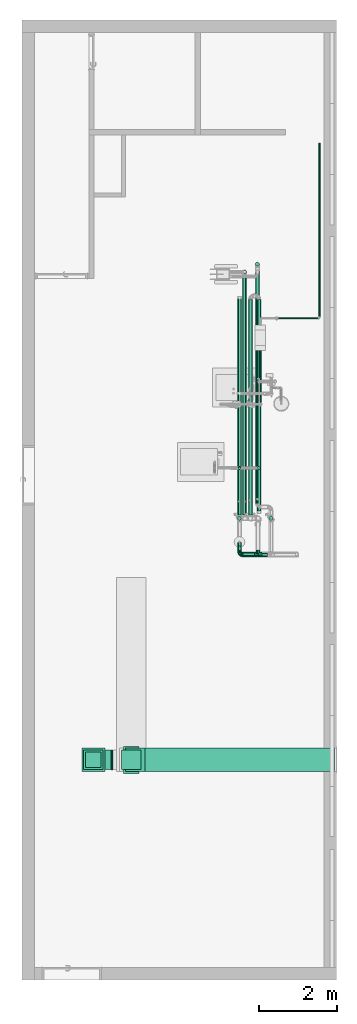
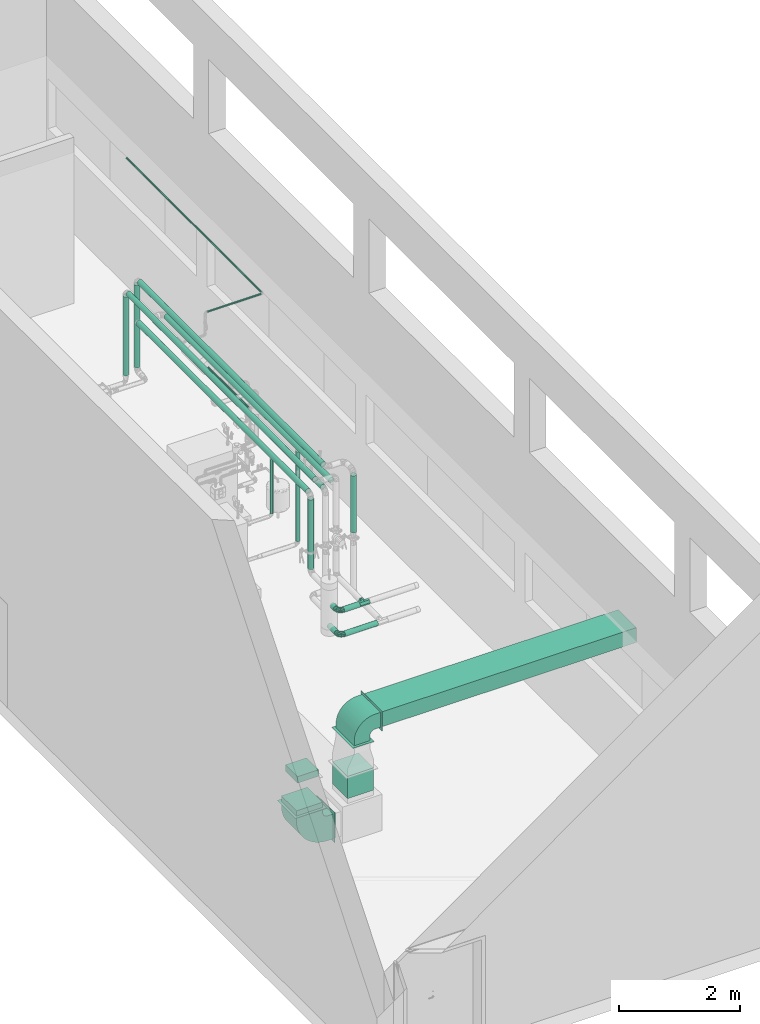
# One storey, part 8 of 43: 23 flow segments, 5 flow fittings.
"""IFC2X3 building model written with IfcOpenShell, lengths in millimetres."""

from ifc_helpers import new_model, entity, si_unit, converted_unit, derived_unit, direction, frame, frame_2d, origin, origin_2d_with_axis, place, context, subcontext, project, spatial, polyline, circle_curve, parameter, trimmed, segment, composite_curve, rectangle, circle, outline, extrude, faceted_brep, source, transform, mapped, material, material_list, type_object, type_shapes, element, save


model = new_model("IFC2X3")

# Units and contexts
model_context = context("Model", 3, precision=0.01, world=origin(), true_north=direction((6.123031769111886e-17, 1.0)))
body_context = subcontext(model_context, "Body", "Model", "MODEL_VIEW")
ifc_project = project(units=[si_unit("LENGTHUNIT", "METRE", prefix="MILLI"), si_unit("AREAUNIT", "SQUARE_METRE"), si_unit("VOLUMEUNIT", "CUBIC_METRE"), converted_unit("PLANEANGLEUNIT", "DEGREE", entity("IfcRatioMeasure", 0.017453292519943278), si_unit("PLANEANGLEUNIT", "RADIAN"), dimensions=[0, 0, 0, 0, 0, 0, 0]), si_unit("MASSUNIT", "GRAM", prefix="KILO"), derived_unit("MASSDENSITYUNIT", [(si_unit("MASSUNIT", "GRAM", prefix="KILO"), 1), (si_unit("LENGTHUNIT", "METRE"), -3)]), derived_unit("MOMENTOFINERTIAUNIT", [(si_unit("LENGTHUNIT", "METRE"), 4)]), si_unit("TIMEUNIT", "SECOND"), si_unit("FREQUENCYUNIT", "HERTZ"), si_unit("THERMODYNAMICTEMPERATUREUNIT", "DEGREE_CELSIUS"), derived_unit("THERMALTRANSMITTANCEUNIT", [(si_unit("MASSUNIT", "GRAM", prefix="KILO"), 1), (si_unit("THERMODYNAMICTEMPERATUREUNIT", "KELVIN"), -1), (si_unit("TIMEUNIT", "SECOND"), -3)]), derived_unit("VOLUMETRICFLOWRATEUNIT", [(si_unit("LENGTHUNIT", "METRE"), 3), (si_unit("TIMEUNIT", "SECOND"), -1)]), derived_unit("MASSFLOWRATEUNIT", [(si_unit("MASSUNIT", "GRAM", prefix="KILO"), 1), (si_unit("TIMEUNIT", "SECOND"), -1)]), derived_unit("ROTATIONALFREQUENCYUNIT", [(si_unit("TIMEUNIT", "SECOND"), -1)]), si_unit("ELECTRICCURRENTUNIT", "AMPERE"), si_unit("ELECTRICVOLTAGEUNIT", "VOLT"), si_unit("POWERUNIT", "WATT"), si_unit("FORCEUNIT", "NEWTON", prefix="KILO"), si_unit("ILLUMINANCEUNIT", "LUX"), si_unit("LUMINOUSFLUXUNIT", "LUMEN"), si_unit("LUMINOUSINTENSITYUNIT", "CANDELA"), derived_unit("USERDEFINED", [(si_unit("MASSUNIT", "GRAM", prefix="KILO"), -1), (si_unit("LENGTHUNIT", "METRE"), -2), (si_unit("TIMEUNIT", "SECOND"), 3), (si_unit("LUMINOUSFLUXUNIT", "LUMEN"), 1)]), derived_unit("SOUNDPOWERUNIT", [(si_unit("MASSUNIT", "GRAM", prefix="KILO"), 1), (si_unit("LENGTHUNIT", "METRE"), 2), (si_unit("TIMEUNIT", "SECOND"), -3)]), derived_unit("SOUNDPRESSUREUNIT", [(si_unit("MASSUNIT", "GRAM", prefix="KILO"), 1), (si_unit("LENGTHUNIT", "METRE"), -1), (si_unit("TIMEUNIT", "SECOND"), -2)]), derived_unit("LINEARVELOCITYUNIT", [(si_unit("LENGTHUNIT", "METRE"), 1), (si_unit("TIMEUNIT", "SECOND"), -1)]), si_unit("PRESSUREUNIT", "PASCAL"), derived_unit("USERDEFINED", [(si_unit("LENGTHUNIT", "METRE"), -2), (si_unit("MASSUNIT", "GRAM", prefix="KILO"), 1), (si_unit("TIMEUNIT", "SECOND"), -2)]), derived_unit("LINEARFORCEUNIT", [(si_unit("MASSUNIT", "GRAM", prefix="KILO"), 1), (si_unit("LENGTHUNIT", "METRE"), 1), (si_unit("TIMEUNIT", "SECOND"), -2), (si_unit("LENGTHUNIT", "METRE"), -1)]), derived_unit("PLANARFORCEUNIT", [(si_unit("MASSUNIT", "GRAM", prefix="KILO"), 1), (si_unit("LENGTHUNIT", "METRE"), 1), (si_unit("TIMEUNIT", "SECOND"), -2), (si_unit("LENGTHUNIT", "METRE"), -2)])], contexts=[model_context])

# Site, building, storey
site_placement = place(None, origin())
site = spatial("IfcSite", under=ifc_project, at=site_placement, Name="Default", CompositionType="ELEMENT")
building_placement = place(site_placement, origin())
building = spatial("IfcBuilding", under=site, at=building_placement, CompositionType="ELEMENT")
storey_placement = place(building_placement, frame((0.0, 0.0, 270.0)))
storey = spatial("IfcBuildingStorey", under=building, at=storey_placement, Name="Niveau 0", CompositionType="ELEMENT", Elevation=270.0)

# Flow segments
duct_segment_type = type_object("IfcDuctSegmentType", Name="Gaine rectangulaire:Té / Coude à rayon bridé", PredefinedType="NOTDEFINED")
flow_segment_1_placement = place(storey_placement, origin())
element("IfcFlowSegment", 1, at=flow_segment_1_placement, inside=storey, type_object=duct_segment_type, Name="Gaine rectangulaire:Té / Coude à rayon bridé", ObjectType="Gaine rectangulaire:Té / Coude à rayon bridé", context=body_context, shape_type="SweptSolid", body=[
    extrude(rectangle(XDim=44.794034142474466, YDim=500.00000000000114, at=frame_2d((0.0, -2.1742607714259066e-12), x_axis=(1.0, 0.0))), frame((-5783.139540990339, -19048.55253287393, 675.0), z_axis=(0.0, 0.0, 1.0), x_axis=(-1.0, 0.0, 0.0)), (0.0, 0.0, 1.0), 500.00000000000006),
])
flow_segment_2_placement = place(storey_placement, origin())
element("IfcFlowSegment", 2, at=flow_segment_2_placement, inside=storey, type_object=duct_segment_type, Name="Gaine rectangulaire:Té / Coude à rayon bridé", ObjectType="Gaine rectangulaire:Té / Coude à rayon bridé", context=body_context, shape_type="SweptSolid", body=[
    extrude(rectangle(XDim=500.00000000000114, YDim=499.999999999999, at=origin_2d_with_axis()), frame((-6260.53655806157, -19048.552532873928, 1380.0), z_axis=(0.0, 0.0, 1.0), x_axis=(-1.0, 0.0, 0.0)), (0.0, 0.0, 1.0), 104.99999999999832),
])
flow_segment_3_placement = place(storey_placement, origin())
element("IfcFlowSegment", 3, at=flow_segment_3_placement, inside=storey, type_object=duct_segment_type, Name="Gaine rectangulaire:Té / Coude à rayon bridé", ObjectType="Gaine rectangulaire:Té / Coude à rayon bridé", context=body_context, shape_type="SweptSolid", body=[
    extrude(rectangle(XDim=399.9999999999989, YDim=400.0000000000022, at=origin_2d_with_axis()), frame((-6260.53655806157, -19048.55253287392, 1995.0), z_axis=(0.0, 0.0, 1.0), x_axis=(-1.0, 0.0, 0.0)), (0.0, 0.0, 1.0), 130.00000000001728),
])
flow_segment_4_placement = place(storey_placement, origin())
element("IfcFlowSegment", 4, at=flow_segment_4_placement, inside=storey, type_object=duct_segment_type, Name="Gaine rectangulaire:Té / Coude à rayon bridé", ObjectType="Gaine rectangulaire:Té / Coude à rayon bridé", context=body_context, shape_type="SweptSolid", body=[
    extrude(rectangle(XDim=4880.74252391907, YDim=600.0, at=frame_2d((0.0, -1.0800249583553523e-12), x_axis=(1.0, 0.0))), frame((-2490.3712619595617, -19048.552532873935, 2650.0)), (0.0, 0.0, 1.0), 300.0),
])
flow_segment_5_placement = place(storey_placement, origin())
element("IfcFlowSegment", 5, at=flow_segment_5_placement, inside=storey, type_object=duct_segment_type, Name="Gaine rectangulaire:Té / Coude à rayon bridé", ObjectType="Gaine rectangulaire:Té / Coude à rayon bridé", context=body_context, shape_type="SweptSolid", body=[
    extrude(rectangle(XDim=499.999999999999, YDim=499.999999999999, at=frame_2d((0.0, 2.1742607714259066e-12), x_axis=(1.0, 0.0))), frame((-5285.742523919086, -19048.55253287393, 1390.0), z_axis=(0.0, 0.0, 1.0), x_axis=(-1.0, 0.0, 0.0)), (0.0, 0.0, 1.0), 445.0000000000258),
])

# Flow fittings
ifc_material = material(Name="<Unnamed>")
ifc_material_list_1 = material_list([ifc_material, ifc_material, ifc_material, ifc_material, ifc_material])
ifc_material_list_2 = material_list([ifc_material, ifc_material, ifc_material, ifc_material, ifc_material])
duct_fitting_type_1 = type_object("IfcDuctFittingType", Name="Coude rectangulaire - Rayon constant - Bridé:100 R", PredefinedType="NOTDEFINED", material=ifc_material_list_2)
shared_shape_1 = source(origin(), body_context, "Body", "SweptSolid", [
    extrude(rectangle(XDim=104.99999999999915, YDim=500.0, at=origin_2d_with_axis()), frame((0.0, 402.500000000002, -250.0), z_axis=(0.0, 0.0, 1.0), x_axis=(0.0, 1.0, 0.0)), (0.0, 0.0, 1.0), 500.00000000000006),
    extrude(rectangle(XDim=500.0, YDim=104.99999999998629, at=frame_2d((3.353761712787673e-12, 0.0), x_axis=(1.0, 0.0))), frame((-402.499999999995, 0.0, -250.0), z_axis=(0.0, 0.0, 1.0), x_axis=(0.0, -1.0, 0.0)), (0.0, 0.0, 1.0), 500.00000000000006),
    extrude(outline(composite_curve([segment(polyline([(-425.0, -175.0), (75.0, -175.0)]), True, "CONTINUOUS"), segment(trimmed(circle_curve(frame_2d((175.0, -175.0), x_axis=(0.0, 1.0)), 100.0), [parameter(0.0)], [parameter(89.99999999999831)], True, "PARAMETER"), False, "CONTINUOUS"), segment(polyline([(175.0, -75.0), (175.0, 425.0)]), True, "CONTINUOUS"), segment(trimmed(circle_curve(frame_2d((175.0, -175.0), x_axis=(0.0, 1.0)), 600.0), [parameter(0.0)], [parameter(89.99999999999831)], True, "PARAMETER"), True, "CONTINUOUS")], self_intersect=False)), frame((-175.0, 175.0, -250.0), z_axis=(0.0, 0.0, 1.0), x_axis=(-1.0, 0.0, 0.0)), (0.0, 0.0, 1.0), 500.00000000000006),
    extrude(rectangle(XDim=5.000000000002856, YDim=600.0, at=frame_2d((-3.397282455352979e-14, 0.0), x_axis=(1.0, 0.0))), frame((-452.4999999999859, 0.0, -300.0)), (0.0, 0.0, 1.0), 600.0),
    extrude(rectangle(XDim=5.000000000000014, YDim=600.0, at=frame_2d((-3.397282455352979e-14, 0.0), x_axis=(1.0, 0.0))), frame((0.0, 452.5000000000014, -300.0), z_axis=(0.0, 0.0, 1.0), x_axis=(0.0, 1.0, 0.0)), (0.0, 0.0, 1.0), 600.0),
])
type_shapes(duct_fitting_type_1, [shared_shape_1])
flow_fitting_1_placement = place(storey_placement, frame((-6260.536558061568, -19048.552532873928, 925.0), z_axis=(0.0, 1.0, 0.0), x_axis=(-1.0, 0.0, 0.0)))
element("IfcFlowFitting", 6, at=flow_fitting_1_placement, inside=storey, type_object=duct_fitting_type_1, material=ifc_material_list_1, Name="Coude rectangulaire - Rayon constant - Bridé:100 R", ObjectType="Coude rectangulaire - Rayon constant - Bridé:100 R", context=body_context, shape_type="MappedRepresentation", body=[
    mapped(shared_shape_1, transform((0.0, 0.0, 0.0), scale=1.0)),
])
ifc_material_list_3 = material_list([ifc_material, ifc_material, ifc_material, ifc_material, ifc_material])
ifc_material_list_4 = material_list([ifc_material, ifc_material, ifc_material, ifc_material, ifc_material])
duct_fitting_type_2 = type_object("IfcDuctFittingType", Name="Coude rectangulaire - Rayon constant - Bridé:100 R", PredefinedType="NOTDEFINED", material=ifc_material_list_4)
shared_shape_2 = source(origin(), body_context, "Body", "SweptSolid", [
    extrude(rectangle(XDim=105.00000000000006, YDim=300.0, at=frame_2d((1.7763568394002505e-14, 0.0), x_axis=(1.0, 0.0))), frame((0.0, 302.5000000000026, -300.0), z_axis=(0.0, 0.0, 1.0), x_axis=(0.0, 1.0, 0.0)), (0.0, 0.0, 1.0), 600.0),
    extrude(rectangle(XDim=300.0, YDim=104.9999999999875, at=frame_2d((4.078515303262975e-12, -3.730349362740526e-13), x_axis=(1.0, 0.0))), frame((-302.4999999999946, 0.0, -300.0), z_axis=(0.0, 0.0, 1.0), x_axis=(0.0, -1.0, 0.0)), (0.0, 0.0, 1.0), 600.0000000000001),
    extrude(outline(composite_curve([segment(polyline([(-275.0, -125.0), (25.0, -125.0)]), True, "CONTINUOUS"), segment(trimmed(circle_curve(frame_2d((125.0, -125.0), x_axis=(0.0, 1.0)), 99.99999999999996), [parameter(0.0)], [parameter(89.99999999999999)], True, "PARAMETER"), False, "CONTINUOUS"), segment(polyline([(125.0, -25.0), (125.0, 275.0)]), True, "CONTINUOUS"), segment(trimmed(circle_curve(frame_2d((125.0, -125.0), x_axis=(0.0, 1.0)), 400.0), [parameter(0.0)], [parameter(89.99999999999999)], True, "PARAMETER"), True, "CONTINUOUS")], self_intersect=False)), frame((-125.0, 125.0, -300.0), z_axis=(0.0, 0.0, 1.0), x_axis=(-1.0, 0.0, 0.0)), (0.0, 0.0, 1.0), 600.0),
    extrude(rectangle(XDim=5.0000000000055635, YDim=400.0, at=frame_2d((-3.397282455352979e-14, 0.0), x_axis=(1.0, 0.0))), frame((-352.4999999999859, 0.0, -350.0)), (0.0, 0.0, 1.0), 700.0),
    extrude(rectangle(XDim=5.0000000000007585, YDim=400.0, at=origin_2d_with_axis()), frame((0.0, 352.50000000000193, -350.0), z_axis=(0.0, 0.0, 1.0), x_axis=(0.0, 1.0, 0.0)), (0.0, 0.0, 1.0), 700.0),
])
type_shapes(duct_fitting_type_2, [shared_shape_2])
flow_fitting_2_placement = place(storey_placement, frame((-5285.742523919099, -19048.552532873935, 2800.0), z_axis=(0.0, 1.0, 0.0), x_axis=(0.0, 0.0, 1.0)))
element("IfcFlowFitting", 7, at=flow_fitting_2_placement, inside=storey, type_object=duct_fitting_type_2, material=ifc_material_list_3, Name="Coude rectangulaire - Rayon constant - Bridé:100 R", ObjectType="Coude rectangulaire - Rayon constant - Bridé:100 R", context=body_context, shape_type="MappedRepresentation", body=[
    mapped(shared_shape_2, transform((0.0, 0.0, 0.0), scale=1.0)),
])

# Flow segments
pipe_segment_type_1 = type_object("IfcPipeSegmentType", Name="Canalisation:tube acier", PredefinedType="NOTDEFINED")
flow_segment_6_placement = place(storey_placement, origin())
element("IfcFlowSegment", 8, at=flow_segment_6_placement, inside=storey, type_object=pipe_segment_type_1, Name="Canalisation:tube acier", ObjectType="Canalisation:tube acier", context=body_context, shape_type="SweptSolid", body=[
    extrude(circle(Radius=50.8, at=origin_2d_with_axis()), frame((-2414.2632335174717, -13775.499999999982, 271.1847527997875), z_axis=(0.9999993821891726, 0.0, 0.0011115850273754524), x_axis=(0.0, 1.0, 0.0)), (0.0, 0.0, 1.0), 629.2636793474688),
])
flow_segment_7_placement = place(storey_placement, origin())
element("IfcFlowSegment", 9, at=flow_segment_7_placement, inside=storey, type_object=pipe_segment_type_1, Name="Canalisation:tube acier", ObjectType="Canalisation:tube acier", context=body_context, shape_type="SweptSolid", body=[
    extrude(circle(Radius=50.8, at=origin_2d_with_axis()), frame((-2040.0, -12445.05665622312, 2751.9883586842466), z_axis=(0.0, 1.0, 0.0), x_axis=(1.0, 0.0, 0.0)), (0.0, 0.0, 1.0), 6069.556656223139),
])
flow_segment_8_placement = place(storey_placement, origin())
element("IfcFlowSegment", 10, at=flow_segment_8_placement, inside=storey, type_object=pipe_segment_type_1, Name="Canalisation:tube acier", ObjectType="Canalisation:tube acier", context=body_context, shape_type="SweptSolid", body=[
    extrude(circle(Radius=50.8, at=origin_2d_with_axis()), frame((-2503.263180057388, -13686.499999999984, 271.08720336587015), z_axis=(0.0, 0.9998190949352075, 0.019020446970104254), x_axis=(1.0, 0.0, 0.0)), (0.0, 0.0, 1.0), 229.9675407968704),
])
flow_segment_9_placement = place(storey_placement, origin())
element("IfcFlowSegment", 11, at=flow_segment_9_placement, inside=storey, type_object=pipe_segment_type_1, Name="Canalisation:tube acier", ObjectType="Canalisation:tube acier", context=body_context, shape_type="SweptSolid", body=[
    extrude(circle(Radius=50.8, at=origin_2d_with_axis()), frame((-1690.0, -12830.0, 1515.4999999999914), z_axis=(0.0, 0.0, 1.0), x_axis=(-1.0, 0.0, 0.0)), (0.0, 0.0, 1.0), 1147.4883586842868),
])
flow_segment_10_placement = place(storey_placement, origin())
element("IfcFlowSegment", 12, at=flow_segment_10_placement, inside=storey, type_object=pipe_segment_type_1, Name="Canalisation:tube acier", ObjectType="Canalisation:tube acier", context=body_context, shape_type="SweptSolid", body=[
    extrude(circle(Radius=50.8, at=origin_2d_with_axis()), frame((-2040.0, -6286.499999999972, 998.0)), (0.0, 0.0, 1.0), 1664.988358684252),
])
flow_segment_11_placement = place(storey_placement, origin())
element("IfcFlowSegment", 13, at=flow_segment_11_placement, inside=storey, type_object=pipe_segment_type_1, Name="Canalisation:tube acier", ObjectType="Canalisation:tube acier", context=body_context, shape_type="SweptSolid", body=[
    extrude(circle(Radius=50.8, at=frame_2d((-4.331468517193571e-12, 0.0), x_axis=(1.0, 0.0))), frame((-2503.2631800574, -13656.499999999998, 741.9883586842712), z_axis=(0.0, 1.0, 0.0), x_axis=(-1.0, 0.0, 0.0)), (0.0, 0.0, 1.0), 111.04339182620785),
])
flow_segment_12_placement = place(storey_placement, origin())
element("IfcFlowSegment", 14, at=flow_segment_12_placement, inside=storey, type_object=pipe_segment_type_1, Name="Canalisation:tube acier", ObjectType="Canalisation:tube acier", context=body_context, shape_type="SweptSolid", body=[
    extrude(circle(Radius=50.8, at=origin_2d_with_axis()), frame((-2113.2631797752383, -13745.499999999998, 741.9651596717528), z_axis=(-0.9999999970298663, 0.0, 7.707313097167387e-05), x_axis=(0.0, -1.0, 0.0)), (0.0, 0.0, 1.0), 301.00000117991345),
])
flow_segment_13_placement = place(storey_placement, origin())
element("IfcFlowSegment", 15, at=flow_segment_13_placement, inside=storey, type_object=pipe_segment_type_1, Name="Canalisation:tube acier", ObjectType="Canalisation:tube acier", context=body_context, shape_type="SweptSolid", body=[
    extrude(circle(Radius=50.8, at=frame_2d((2.707167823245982e-13, 0.0), x_axis=(1.0, 0.0))), frame((-2368.263180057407, -12741.0, 2751.966643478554), z_axis=(0.0, 1.0, 3.5220510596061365e-06), x_axis=(1.0, 0.0, 0.0)), (0.0, 0.0, 1.0), 6165.500000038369),
])
flow_segment_14_placement = place(storey_placement, origin())
element("IfcFlowSegment", 16, at=flow_segment_14_placement, inside=storey, type_object=pipe_segment_type_1, Name="Canalisation:tube acier", ObjectType="Canalisation:tube acier", context=body_context, shape_type="SweptSolid", body=[
    extrude(circle(Radius=50.8, at=origin_2d_with_axis()), frame((-2368.2631800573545, -6486.499999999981, 1074.3648641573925)), (0.0, 0.0, 1.0), 1588.6234945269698),
])
flow_segment_15_placement = place(storey_placement, origin())
element("IfcFlowSegment", 17, at=flow_segment_15_placement, inside=storey, type_object=pipe_segment_type_1, Name="Canalisation:tube acier", ObjectType="Canalisation:tube acier", context=body_context, shape_type="SweptSolid", body=[
    extrude(circle(Radius=50.8, at=frame_2d((2.707167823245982e-13, -5.414335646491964e-13), x_axis=(1.0, 0.0))), frame((-2220.5299038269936, -12741.0, 2539.553718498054), z_axis=(0.0, 1.0, 0.0), x_axis=(1.0, 0.0, 0.0)), (0.0, 0.0, 1.0), 5549.487361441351),
])
flow_segment_16_placement = place(storey_placement, origin())
element("IfcFlowSegment", 18, at=flow_segment_16_placement, inside=storey, type_object=pipe_segment_type_1, Name="Canalisation:tube acier", ObjectType="Canalisation:tube acier", context=body_context, shape_type="SweptSolid", body=[
    extrude(circle(Radius=50.8, at=frame_2d((-1.6243006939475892e-12, 0.0), x_axis=(1.0, 0.0))), frame((-2000.0, -12636.499999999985, 2539.5537184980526), z_axis=(0.0, 1.0, 0.0), x_axis=(-1.0, 0.0, 0.0)), (0.0, 0.0, 1.0), 5444.987361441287),
])
flow_segment_17_placement = place(storey_placement, origin())
element("IfcFlowSegment", 19, at=flow_segment_17_placement, inside=storey, type_object=pipe_segment_type_1, Name="Canalisation:tube acier", ObjectType="Canalisation:tube acier", context=body_context, shape_type="SweptSolid", body=[
    extrude(circle(Radius=50.8, at=origin_2d_with_axis()), frame((-2503.2631800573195, -12830.0, 1059.0)), (0.0, 0.0, 1.0), 1406.0158586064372),
])
flow_segment_18_placement = place(storey_placement, origin())
element("IfcFlowSegment", 20, at=flow_segment_18_placement, inside=storey, type_object=pipe_segment_type_1, Name="Canalisation:tube acier", ObjectType="Canalisation:tube acier", context=body_context, shape_type="SweptSolid", body=[
    extrude(circle(Radius=50.8, at=origin_2d_with_axis()), frame((-2503.26318005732, -12741.0, 2554.0158586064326), z_axis=(0.0, 1.0, 0.0), x_axis=(1.0, 0.0, 0.0)), (0.0, 0.0, 1.0), 5600.878249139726),
])
flow_segment_19_placement = place(storey_placement, origin())
element("IfcFlowSegment", 21, at=flow_segment_19_placement, inside=storey, type_object=pipe_segment_type_1, Name="Canalisation:tube acier", ObjectType="Canalisation:tube acier", context=body_context, shape_type="SweptSolid", body=[
    extrude(circle(Radius=36.5125, at=frame_2d((0.0, -2.1657342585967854e-12), x_axis=(1.0, 0.0))), frame((-2000.0, -11531.369107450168, 647.4999999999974)), (0.0, 0.0, 1.0), 1816.2537184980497),
])
flow_segment_20_placement = place(storey_placement, origin())
element("IfcFlowSegment", 22, at=flow_segment_20_placement, inside=storey, type_object=pipe_segment_type_1, Name="Canalisation:tube acier", ObjectType="Canalisation:tube acier", context=body_context, shape_type="SweptSolid", body=[
    extrude(circle(Radius=30.162500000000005, at=frame_2d((-5.414335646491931e-13, 4.401656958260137e-24), x_axis=(1.0, 0.0))), frame((-2499.9998786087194, -11530.946213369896, 1377.499999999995), z_axis=(-1.10498084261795e-07, -7.35726277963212e-05, 0.9999999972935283), x_axis=(1.0, 0.0, 1.1049808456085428e-07)), (0.0, 0.0, 1.0), 1098.5828391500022),
])

# Flow fittings
pipe_fitting_type_1 = type_object("IfcPipeFittingType", Name="Té - Générique:Standard", PredefinedType="NOTDEFINED", material=ifc_material)
shared_shape_3 = source(origin(), body_context, "Body", "Brep", [
    faceted_brep([(-95.0, -50.80000000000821, 0.0), (-95.0, -42.857433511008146, 13.756928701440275), (-95.0, -38.100000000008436, 21.997045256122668), (-95.0, -25.400000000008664, 43.994090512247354), (-95.0, 0.0, 43.994090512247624), (-95.0, 25.399999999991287, 43.9940905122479), (-95.0, 38.09999999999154, 21.997045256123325), (-95.0, 50.79999999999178, 0.0), (-95.0, 34.91486667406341, -27.513858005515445), (-95.0, 25.399999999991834, -43.994090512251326), (-95.0, 0.0, -43.99409051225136), (-95.0, -25.40000000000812, -43.994090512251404), (-95.0, -38.100000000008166, -21.997045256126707), (95.0, -42.8574338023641, -13.756928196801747), (95.0, -38.10000000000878, -21.997045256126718), (95.0, -25.40000000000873, -43.994090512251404), (95.0, 0.0, -43.99409051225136), (95.0, 25.399999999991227, -43.994090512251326), (95.0, 38.099999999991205, -21.997045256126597), (95.0, 50.79999999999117, 0.0), (95.0, 34.914867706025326, 27.513856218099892), (95.0, 25.399999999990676, 43.9940905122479), (95.0, 0.0, 43.994090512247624), (95.0, -25.40000000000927, 43.994090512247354), (95.0, -38.10000000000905, 21.99704525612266), (95.0, -50.80000000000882, 0.0), (43.39269796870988, -43.39269796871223, 17.928268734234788), (35.985395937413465, -35.985395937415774, 35.856537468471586), (0.0, 0.0, 50.79999999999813), (-36.22103848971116, -36.22103848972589, 28.26809021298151), (-29.453595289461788, -29.45359528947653, 41.38992298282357), (50.8000000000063, -50.80000000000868, 0.0), (-50.799999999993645, -50.80000000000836, 0.0), (-43.5105192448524, -43.51051924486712, 14.134045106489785), (-40.126797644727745, -40.126797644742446, 20.69496149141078), (36.2210385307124, -36.221038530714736, -28.268090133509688), (-43.39269796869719, -43.39269796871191, -17.92826873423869), (0.0, 0.0, -50.800000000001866), (-35.985395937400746, -35.98539593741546, -35.856537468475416), (43.51051926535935, -43.51051926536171, -14.13404506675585), (40.126797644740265, -40.1267976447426, -20.69496149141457), (29.453595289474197, -29.453595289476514, -41.389922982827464), (25.40000000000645, -95.0, -43.994090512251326), (34.91486744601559, -95.0, -27.513856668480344), (50.800000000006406, -95.0, 0.0), (38.10000000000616, -95.0, 21.99704525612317), (25.4000000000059, -95.0, 43.9940905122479), (0.0, -95.0, 43.994090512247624), (-25.399999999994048, -95.0, 43.994090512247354), (-34.91486766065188, -95.0, 27.513856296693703), (-50.799999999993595, -95.0, 0.0), (-38.09999999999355, -95.0, -21.997045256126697), (-25.399999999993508, -95.0, -43.994090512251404), (0.0, -95.0, -43.99409051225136)], [[[0, 1, 2, 3, 4, 5, 6, 7, 8, 9, 10, 11, 12]], [[13, 14, 15, 16, 17, 18, 19, 20, 21, 22, 23, 24, 25]], [[24, 26, 25]], [[24, 27, 26]], [[27, 24, 23]], [[28, 23, 22, 21]], [[3, 29, 30]], [[25, 26, 31]], [[0, 32, 1]], [[2, 1, 33]], [[23, 28, 27]], [[19, 7, 6, 5, 21, 20]], [[3, 28, 5, 4]], [[3, 30, 28]], [[1, 32, 33]], [[5, 28, 21]], [[2, 33, 34, 29]], [[29, 3, 2]], [[17, 9, 8, 7, 19, 18]], [[35, 15, 14]], [[0, 36, 32]], [[9, 17, 37]], [[12, 38, 36]], [[10, 9, 37, 11]], [[14, 39, 40, 35]], [[37, 17, 16, 15]], [[31, 13, 25]], [[13, 31, 39]], [[35, 41, 15]], [[38, 11, 37]], [[12, 36, 0]], [[14, 13, 39]], [[38, 12, 11]], [[15, 41, 37]], [[42, 43, 44, 45, 46, 47, 48, 49, 50, 51, 52, 53]], [[30, 49, 48]], [[50, 49, 34]], [[50, 34, 33, 32]], [[30, 48, 47]], [[27, 46, 45]], [[31, 45, 44]], [[49, 30, 29, 34]], [[30, 47, 28]], [[45, 31, 26, 27]], [[47, 46, 27]], [[47, 27, 28]], [[41, 43, 42]], [[53, 38, 37]], [[43, 41, 35, 40]], [[44, 40, 39, 31]], [[41, 42, 53]], [[32, 51, 50]], [[44, 43, 40]], [[38, 52, 51]], [[41, 53, 37]], [[51, 32, 36, 38]], [[53, 52, 38]]]),
])
type_shapes(pipe_fitting_type_1, [shared_shape_3])
flow_fitting_3_placement = place(storey_placement, frame((-2018.2631800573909, -13745.500000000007, 741.9578377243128), z_axis=(7.707313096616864e-05, 0.0, 0.9999999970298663), x_axis=(-0.9999999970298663, 0.0, 7.707313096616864e-05)))
element("IfcFlowFitting", 23, at=flow_fitting_3_placement, inside=storey, type_object=pipe_fitting_type_1, material=ifc_material, Name="Té - Générique:Standard", ObjectType="Té - Générique:Standard", context=body_context, shape_type="MappedRepresentation", body=[
    mapped(shared_shape_3, transform((0.0, 0.0, 0.0), scale=1.0)),
])
ifc_material_list_5 = material_list([ifc_material, ifc_material])
ifc_material_list_6 = material_list([ifc_material, ifc_material])
pipe_fitting_type_2 = type_object("IfcPipeFittingType", Name="Coude - Générique:Standard", PredefinedType="NOTDEFINED", material=ifc_material_list_6)
shared_shape_4 = source(origin(), body_context, "Body", "Brep", [
    faceted_brep([(32.07035144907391, 19.099999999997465, 0.0), (27.713566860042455, 21.615390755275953, -22.04129394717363), (45.76921848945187, 89.0, -22.04129394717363), (50.80000000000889, 89.0, 0.0), (15.506127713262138, 28.663359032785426, -39.71703930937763), (31.67328193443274, 89.0, -39.71703930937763), (-2.1341329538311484, 38.84796827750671, -49.52633793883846), (11.304063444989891, 89.0, -49.52633793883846), (-21.713345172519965, 50.15203172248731, -49.526337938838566), (-11.304063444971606, 89.0, -49.526337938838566), (-39.35360583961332, 60.33664096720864, -39.71703930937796), (-31.67328193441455, 89.0, -39.71703930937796), (-51.56104498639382, 67.3846092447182, -22.041293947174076), (-45.769218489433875, 89.0, -22.041293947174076), (-55.91782957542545, 69.89999999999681, 0.0), (-50.79999999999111, 89.0, 0.0), (-51.56104498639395, 67.38460924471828, 22.041293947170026), (-45.76921848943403, 89.0, 22.041293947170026), (-39.35360583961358, 60.33664096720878, 39.71703930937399), (-31.673281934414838, 89.0, 39.71703930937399), (-21.713345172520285, 50.15203172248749, 49.52633793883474), (-11.304063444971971, 89.0, 49.52633793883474), (-2.134132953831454, 38.84796827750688, 49.52633793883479), (11.304063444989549, 89.0, 49.52633793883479), (15.506127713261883, 28.663359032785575, 39.71703930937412), (31.673281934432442, 89.0, 39.71703930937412), (27.713566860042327, 21.615390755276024, 22.04129394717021), (45.76921848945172, 89.0, 22.04129394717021), (-19.099999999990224, -32.07035144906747, 0.0), (-21.61539075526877, -27.713566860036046, -22.04129394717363), (-28.663359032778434, -15.506127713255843, -39.71703930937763), (-38.847968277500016, 2.1341329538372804, -49.52633793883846), (-50.15203172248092, 21.71334517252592, -49.526337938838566), (-60.33664096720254, 39.35360583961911, -39.71703930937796), (-67.38460924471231, 51.56104498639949, -22.041293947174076), (-69.89999999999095, 55.91782957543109, 0.0), (-67.3846092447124, 51.56104498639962, 22.041293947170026), (-60.33664096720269, 39.353605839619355, 39.71703930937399), (-50.152031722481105, 21.71334517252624, 49.52633793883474), (-38.84796827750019, 2.134132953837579, 49.52633793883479), (-28.663359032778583, -15.506127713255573, 39.71703930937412), (-21.61539075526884, -27.713566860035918, 22.04129394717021), (-89.0, -50.80000000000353, 0.0), (-89.0, -45.769218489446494, -22.04129394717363), (-89.0, -31.673281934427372, -39.71703930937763), (-89.0, -11.304063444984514, -49.52633793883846), (-89.0, 11.304063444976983, -49.526337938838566), (-89.0, 31.673281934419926, -39.71703930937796), (-89.0, 45.769218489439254, -22.041293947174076), (-89.0, 50.79999999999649, 0.0), (-89.0, 45.76921848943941, 22.041293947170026), (-89.0, 31.673281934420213, 39.71703930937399), (-89.0, 11.304063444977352, 49.52633793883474), (-89.0, -11.304063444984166, 49.52633793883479), (-89.0, -31.673281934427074, 39.71703930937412), (-89.0, -45.76921848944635, 22.04129394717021)], [[[0, 1, 2, 3]], [[1, 4, 5, 2]], [[4, 6, 7, 5]], [[6, 8, 9, 7]], [[8, 10, 11, 9]], [[10, 12, 13, 11]], [[12, 14, 15, 13]], [[14, 16, 17, 15]], [[16, 18, 19, 17]], [[18, 20, 21, 19]], [[20, 22, 23, 21]], [[22, 24, 25, 23]], [[24, 26, 27, 25]], [[26, 0, 3, 27]], [[28, 29, 1, 0]], [[29, 30, 4, 1]], [[30, 31, 6, 4]], [[31, 32, 8, 6]], [[32, 33, 10, 8]], [[33, 34, 12, 10]], [[34, 35, 14, 12]], [[35, 36, 16, 14]], [[36, 37, 18, 16]], [[37, 38, 20, 18]], [[38, 39, 22, 20]], [[39, 40, 24, 22]], [[40, 41, 26, 24]], [[41, 28, 0, 26]], [[42, 43, 29, 28]], [[43, 44, 30, 29]], [[44, 45, 31, 30]], [[45, 46, 32, 31]], [[46, 47, 33, 32]], [[47, 48, 34, 33]], [[48, 49, 35, 34]], [[49, 50, 36, 35]], [[50, 51, 37, 36]], [[51, 52, 38, 37]], [[52, 53, 39, 38]], [[53, 54, 40, 39]], [[54, 55, 41, 40]], [[55, 42, 28, 41]], [[3, 2, 5, 7, 9, 11, 13, 15, 17, 19, 21, 23, 25, 27]], [[55, 54, 53, 52, 51, 50, 49, 48, 47, 46, 45, 44, 43, 42]]]),
])
type_shapes(pipe_fitting_type_2, [shared_shape_4])
flow_fitting_4_placement = place(storey_placement, frame((-2503.2631800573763, -13775.499999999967, 271.0872033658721), z_axis=(-0.0010960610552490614, 0.0, 0.9999993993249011), x_axis=(0.0, -1.0, 0.0)))
element("IfcFlowFitting", 24, at=flow_fitting_4_placement, inside=storey, type_object=pipe_fitting_type_2, material=ifc_material_list_5, Name="Coude - Générique:Standard", ObjectType="Coude - Générique:Standard", context=body_context, shape_type="MappedRepresentation", body=[
    mapped(shared_shape_4, transform((0.0, 0.0, 0.0), scale=1.0)),
])
flow_fitting_5_placement = place(storey_placement, frame((-2503.2631800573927, -13745.499999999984, 741.9883586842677), z_axis=(0.0, 0.0, 1.0), x_axis=(0.0, -1.0, 0.0)))
element("IfcFlowFitting", 25, at=flow_fitting_5_placement, inside=storey, type_object=pipe_fitting_type_2, material=ifc_material, Name="Coude - Générique:Standard", ObjectType="Coude - Générique:Standard", context=body_context, shape_type="MappedRepresentation", body=[
    mapped(shared_shape_4, transform((0.0, 0.0, 0.0), scale=1.0)),
])

# Flow segments
pipe_segment_type_2 = type_object("IfcPipeSegmentType", Name="Canalisation:tuyau cuivre", PredefinedType="NOTDEFINED")
flow_segment_21_placement = place(storey_placement, origin())
element("IfcFlowSegment", 26, at=flow_segment_21_placement, inside=storey, type_object=pipe_segment_type_2, Name="Canalisation:tuyau cuivre", ObjectType="Canalisation:tuyau cuivre", context=body_context, shape_type="SweptSolid", body=[
    extrude(circle(Radius=17.5, at=frame_2d((7.44471151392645e-13, -5.414335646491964e-13), x_axis=(1.0, 0.0))), frame((-442.4830858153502, -7642.964835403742, 2751.9883586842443), z_axis=(0.0, 1.0, 0.0), x_axis=(-1.0, 0.0, 0.0)), (0.0, 0.0, 1.0), 4465.788281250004),
])
flow_segment_22_placement = place(storey_placement, origin())
element("IfcFlowSegment", 27, at=flow_segment_22_placement, inside=storey, type_object=pipe_segment_type_2, Name="Canalisation:tuyau cuivre", ObjectType="Canalisation:tuyau cuivre", context=body_context, shape_type="SweptSolid", body=[
    extrude(circle(Radius=17.5, at=frame_2d((-4.331468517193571e-12, 3.790034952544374e-12), x_axis=(1.0, 0.0))), frame((-1508.2713670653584, -7677.17655415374, 2751.9883586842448), z_axis=(1.0, 0.0, 0.0), x_axis=(0.0, 1.0, 0.0)), (0.0, 0.0, 1.0), 1031.5765625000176),
])
flow_segment_23_placement = place(storey_placement, origin())
element("IfcFlowSegment", 28, at=flow_segment_23_placement, inside=storey, type_object=pipe_segment_type_2, Name="Canalisation:tuyau cuivre", ObjectType="Canalisation:tuyau cuivre", context=body_context, shape_type="SweptSolid", body=[
    extrude(circle(Radius=17.5, at=frame_2d((-2.4364510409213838e-12, 5.95576921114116e-12), x_axis=(1.0, 0.0))), frame((-1962.4830858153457, -9854.87769983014, 2295.535624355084), z_axis=(0.0, 1.0, 0.0), x_axis=(-1.0, 0.0, 0.0)), (0.0, 0.0, 1.0), 1343.1534154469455),
])

save(model, "model.ifc")
